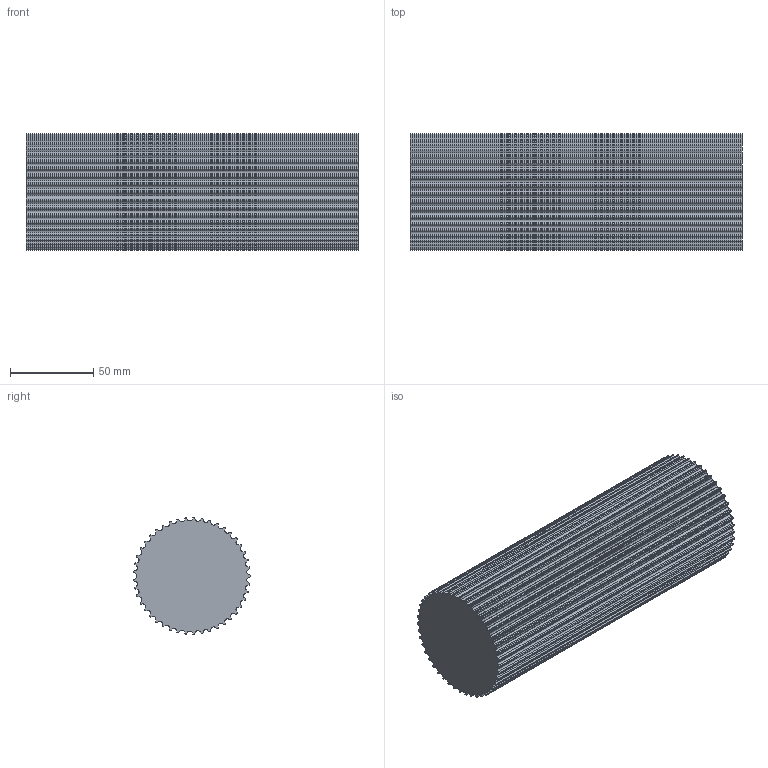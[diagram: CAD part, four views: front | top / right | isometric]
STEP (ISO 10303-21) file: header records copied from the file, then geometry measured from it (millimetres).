
FILE_DESCRIPTION( ( 'STEP AP214' ), '1' );
FILE_NAME( 'C:/Users/StangenbergN/Documents/CAD_Step/1/17294500.stp', '2019-08-23T07:24:04', ( '' ), ( '' ), ' ', 'PARTsolutions', ' ' );
FILE_SCHEMA( ( 'AUTOMOTIVE_DESIGN { 1 0 10303 214 1 1 1 1 }' ) );
Length unit declared in the file: millimetre
Products named in the file (1): _17294500
Bounding box: 200 x 70.41 x 70.45 mm (x, y, z)
Volume: 728216.5 mm3; surface area: 69052.3 mm2
Topology: 1 solids, 1 shells, 362 faces, 1080 edges, 720 vertices
Faces by surface type: cylinder 225, plane 137
Entity records: 15266 total; most frequent: DIRECTION 2256, CARTESIAN_POINT 2163, ORIENTED_EDGE 2160, EDGE_CURVE 1080, AXIS2_PLACEMENT_3D 813, VERTEX_POINT 720, LINE 630, VECTOR 630
